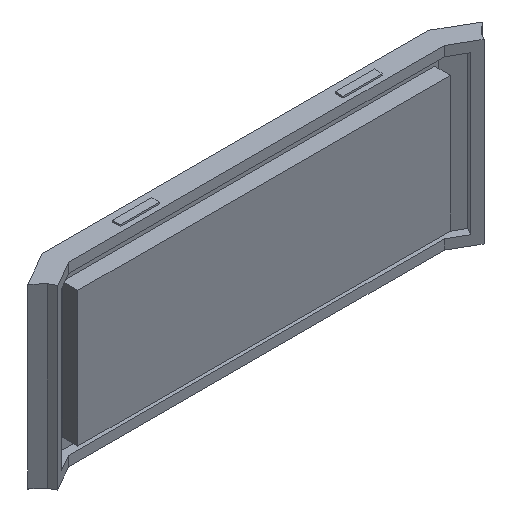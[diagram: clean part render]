
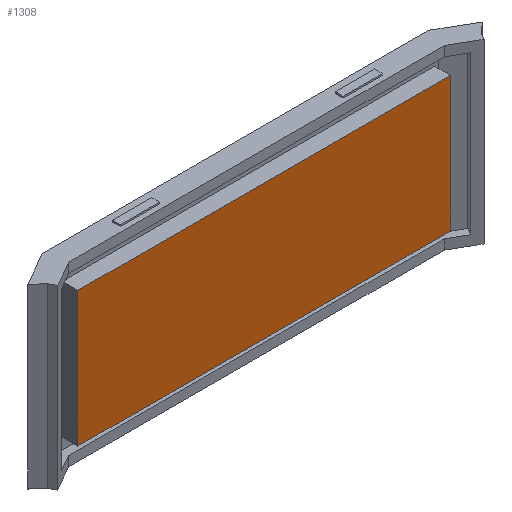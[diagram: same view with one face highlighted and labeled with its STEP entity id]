
A CAD part, isometric view. The second image highlights one B-rep face of the part: STEP entity #1308.
In plain terms, the highlighted planar face has unit normal (0, -1, 0).
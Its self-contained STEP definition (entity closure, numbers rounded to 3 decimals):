
#10 = VECTOR ( 'NONE', #918, 1000. ) ;
#50 = VERTEX_POINT ( 'NONE', #1199 ) ;
#64 = DIRECTION ( 'NONE',  ( 1., 0., 0. ) ) ;
#80 = CARTESIAN_POINT ( 'NONE',  ( -23.75, 12.35, -8.6 ) ) ;
#189 = EDGE_CURVE ( 'NONE', #1217, #556, #926, .T. ) ;
#363 = CARTESIAN_POINT ( 'NONE',  ( 23.75, 12.35, -8.6 ) ) ;
#446 = LINE ( 'NONE', #363, #646 ) ;
#516 = EDGE_CURVE ( 'NONE', #50, #1217, #1223, .T. ) ;
#522 = VECTOR ( 'NONE', #849, 1000. ) ;
#535 = LINE ( 'NONE', #938, #522 ) ;
#556 = VERTEX_POINT ( 'NONE', #1270 ) ;
#594 = DIRECTION ( 'NONE',  ( 0., 0., -1. ) ) ;
#646 = VECTOR ( 'NONE', #64, 1000. ) ;
#659 = ORIENTED_EDGE ( 'NONE', *, *, #189, .T. ) ;
#724 = AXIS2_PLACEMENT_3D ( 'NONE', #1071, #1052, #1028 ) ;
#771 = ORIENTED_EDGE ( 'NONE', *, *, #516, .T. ) ;
#787 = ORIENTED_EDGE ( 'NONE', *, *, #1187, .T. ) ;
#800 = FACE_OUTER_BOUND ( 'NONE', #1192, .T. ) ;
#849 = DIRECTION ( 'NONE',  ( 0., 0., 1. ) ) ;
#918 = DIRECTION ( 'NONE',  ( -1., 0., 0. ) ) ;
#925 = CARTESIAN_POINT ( 'NONE',  ( 23.75, 12.35, 8.6 ) ) ;
#926 = LINE ( 'NONE', #80, #983 ) ;
#938 = CARTESIAN_POINT ( 'NONE',  ( 23.75, 12.35, -8.6 ) ) ;
#947 = EDGE_CURVE ( 'NONE', #556, #1057, #446, .T. ) ;
#983 = VECTOR ( 'NONE', #594, 1000. ) ;
#1028 = DIRECTION ( 'NONE',  ( 1., 0., 0. ) ) ;
#1052 = DIRECTION ( 'NONE',  ( 0., -1., 0. ) ) ;
#1056 = PLANE ( 'NONE',  #724 ) ;
#1057 = VERTEX_POINT ( 'NONE', #1161 ) ;
#1071 = CARTESIAN_POINT ( 'NONE',  ( 0., 12.35, 0. ) ) ;
#1161 = CARTESIAN_POINT ( 'NONE',  ( 23.75, 12.35, -8.6 ) ) ;
#1187 = EDGE_CURVE ( 'NONE', #1057, #50, #535, .T. ) ;
#1192 = EDGE_LOOP ( 'NONE', ( #659, #1363, #787, #771 ) ) ;
#1193 = CARTESIAN_POINT ( 'NONE',  ( -23.75, 12.35, 8.6 ) ) ;
#1199 = CARTESIAN_POINT ( 'NONE',  ( 23.75, 12.35, 8.6 ) ) ;
#1217 = VERTEX_POINT ( 'NONE', #1193 ) ;
#1223 = LINE ( 'NONE', #925, #10 ) ;
#1270 = CARTESIAN_POINT ( 'NONE',  ( -23.75, 12.35, -8.6 ) ) ;
#1308 = ADVANCED_FACE ( 'NONE', ( #800 ), #1056, .T. ) ;
#1363 = ORIENTED_EDGE ( 'NONE', *, *, #947, .T. ) ;
